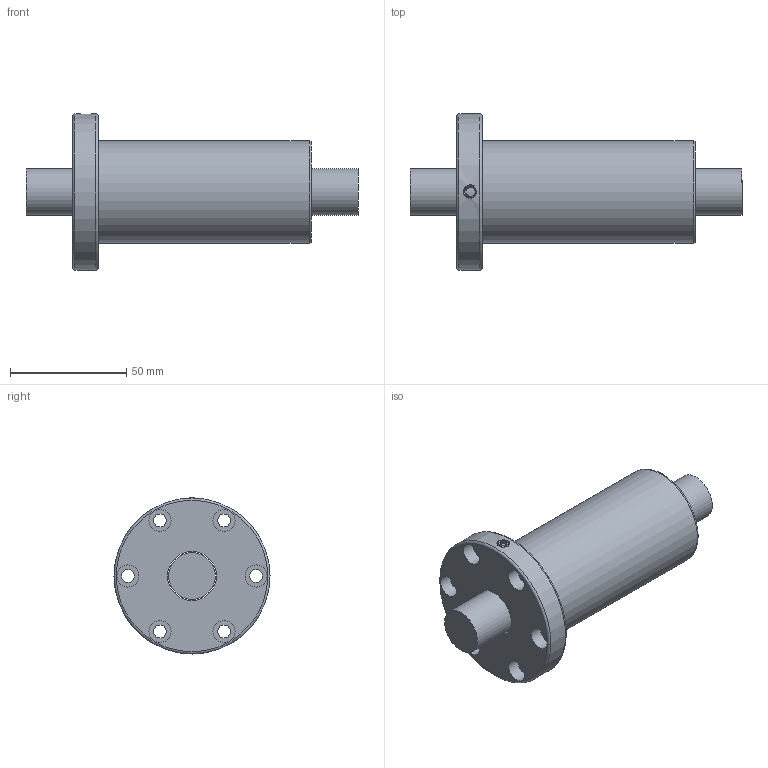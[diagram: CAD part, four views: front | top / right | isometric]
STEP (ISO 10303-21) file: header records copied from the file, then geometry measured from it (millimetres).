
FILE_DESCRIPTION(/* description */ ('Unknown','CAx-IF Rec.Pracs.---Representation and Presentation of Product Manufacturing Information (PMI)---4.0---2014-10-13','CAx-IF Rec.Pracs.---3D Tessellated Geometry---0.4---2014-09-14','2;1'),/* implementation_level */ '2;1');
FILE_NAME(/* name */ 'OFV02005-4.8',/* time_stamp */ '2020-12-06T19:57:14+08:00',/* author */ ('Unknown'),/* organization */ ('Unknown'),/* preprocessor_version */ 'ST-DEVELOPER v16.7',/* originating_system */ 'Solid Edge',/* authorisation */ 'Unknown');
FILE_SCHEMA (('AP242_MANAGED_MODEL_BASED_3D_ENGINEERING_MIM_LF { 1 0 10303 442 1 1 4 }'));
Length unit declared in the file: millimetre
Products named in the file (1): OFV02005-4
Bounding box: 142.5 x 67 x 67 mm (x, y, z)
Volume: 183559.6 mm3; surface area: 39076 mm2
Topology: 2 solids, 2 shells, 37 faces, 79 edges, 53 vertices
Faces by surface type: cylinder 19, plane 12, torus 3, bspline 2, cone 1
Full cylindrical faces by diameter (mm): 4 x1, 5.5 x6, 9.5 x6, 20 x1, 21 x1, 44 x1, 67 x1
Entity records: 3254 total; most frequent: CARTESIAN_POINT 2469, DIRECTION 156, ORIENTED_EDGE 100, EDGE_LOOP 81, FACE_BOUND 81, AXIS2_PLACEMENT_3D 79, EDGE_CURVE 50, VERTEX_POINT 45
